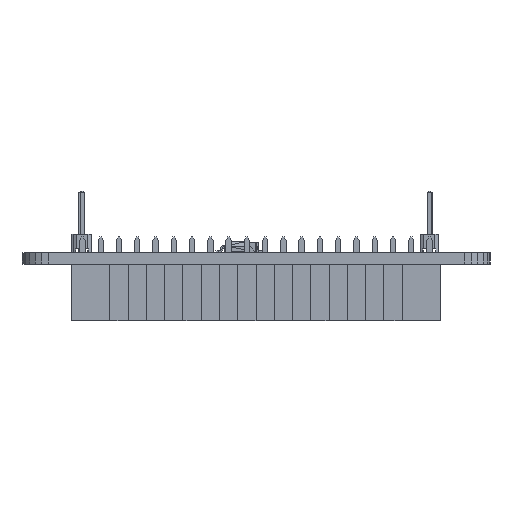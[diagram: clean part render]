
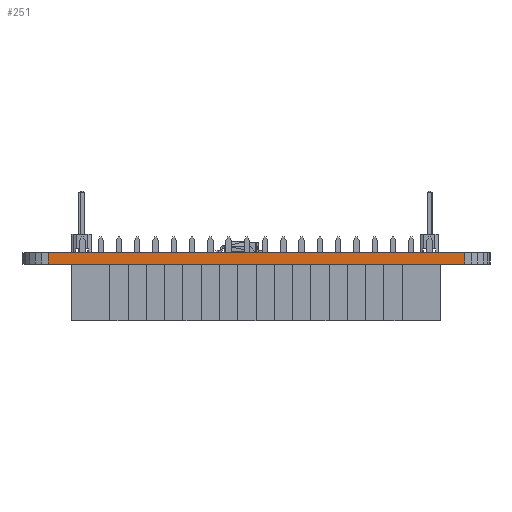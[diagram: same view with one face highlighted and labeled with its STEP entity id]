
A CAD part, left-side view. The second image highlights one B-rep face of the part: STEP entity #251.
In plain terms, the highlighted planar face has unit normal (-1, 0, 0).
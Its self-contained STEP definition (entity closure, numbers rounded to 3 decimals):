
#226 = VERTEX_POINT('',#227);
#227 = CARTESIAN_POINT('',(0.,3.493,-1.59)
  );
#233 = EDGE_CURVE('',#234,#226,#236,.T.);
#234 = VERTEX_POINT('',#235);
#235 = CARTESIAN_POINT('',(0.,3.493,0.));
#236 = LINE('',#237,#238);
#237 = CARTESIAN_POINT('',(0.,3.493,0.));
#238 = VECTOR('',#239,1.);
#239 = DIRECTION('',(0.,0.,-1.));
#251 = ADVANCED_FACE('',(#252),#277,.F.);
#252 = FACE_BOUND('',#253,.F.);
#253 = EDGE_LOOP('',(#254,#255,#263,#271));
#254 = ORIENTED_EDGE('',*,*,#233,.T.);
#255 = ORIENTED_EDGE('',*,*,#256,.T.);
#256 = EDGE_CURVE('',#226,#257,#259,.T.);
#257 = VERTEX_POINT('',#258);
#258 = CARTESIAN_POINT('',(0.,61.436,-1.59
    ));
#259 = LINE('',#260,#261);
#260 = CARTESIAN_POINT('',(0.,3.493,-1.59)
  );
#261 = VECTOR('',#262,1.);
#262 = DIRECTION('',(0.,1.,0.));
#263 = ORIENTED_EDGE('',*,*,#264,.F.);
#264 = EDGE_CURVE('',#265,#257,#267,.T.);
#265 = VERTEX_POINT('',#266);
#266 = CARTESIAN_POINT('',(0.,61.436,0.)
  );
#267 = LINE('',#268,#269);
#268 = CARTESIAN_POINT('',(0.,61.436,0.)
  );
#269 = VECTOR('',#270,1.);
#270 = DIRECTION('',(0.,0.,-1.));
#271 = ORIENTED_EDGE('',*,*,#272,.F.);
#272 = EDGE_CURVE('',#234,#265,#273,.T.);
#273 = LINE('',#274,#275);
#274 = CARTESIAN_POINT('',(0.,3.493,0.));
#275 = VECTOR('',#276,1.);
#276 = DIRECTION('',(0.,1.,0.));
#277 = PLANE('',#278);
#278 = AXIS2_PLACEMENT_3D('',#279,#280,#281);
#279 = CARTESIAN_POINT('',(0.,3.493,0.));
#280 = DIRECTION('',(1.,0.,0.));
#281 = DIRECTION('',(0.,1.,0.));
